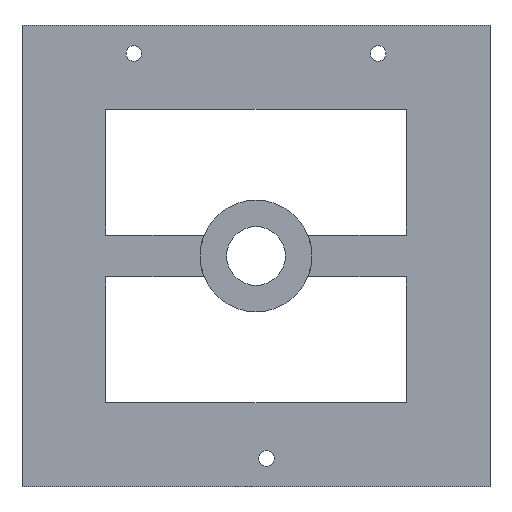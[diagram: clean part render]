
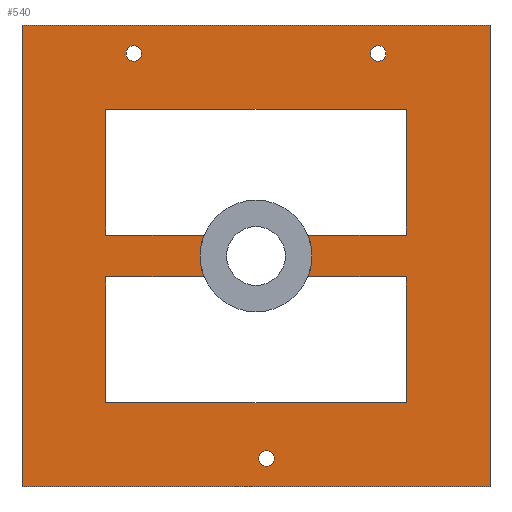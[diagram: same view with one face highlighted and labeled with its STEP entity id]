
A CAD part, front view. The second image highlights one B-rep face of the part: STEP entity #540.
In plain terms, the highlighted planar face has unit normal (0, -1, 0).
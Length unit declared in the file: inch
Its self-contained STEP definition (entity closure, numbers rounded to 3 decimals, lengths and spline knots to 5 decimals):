
#1=DIRECTION('',(1.,0.,0.));
#2=VECTOR('',#1,4.1875);
#3=CARTESIAN_POINT('',(0.,0.,0.));
#4=LINE('',#3,#2);
#5=DIRECTION('',(0.,0.,-1.));
#6=VECTOR('',#5,4.125);
#7=CARTESIAN_POINT('',(4.1875,0.,0.));
#8=LINE('',#7,#6);
#9=DIRECTION('',(-1.,0.,0.));
#10=VECTOR('',#9,4.1875);
#11=CARTESIAN_POINT('',(4.1875,0.,-4.125));
#12=LINE('',#11,#10);
#13=DIRECTION('',(0.,0.,1.));
#14=VECTOR('',#13,4.125);
#15=CARTESIAN_POINT('',(0.,0.,-4.125));
#16=LINE('',#15,#14);
#17=CARTESIAN_POINT('',(2.1875,0.,-3.875));
#18=DIRECTION('',(0.,1.,0.));
#19=DIRECTION('',(1.,0.,0.));
#20=AXIS2_PLACEMENT_3D('',#17,#18,#19);
#22=CARTESIAN_POINT('',(2.1875,0.,-3.875));
#23=DIRECTION('',(0.,1.,0.));
#24=DIRECTION('',(-1.,0.,0.));
#25=AXIS2_PLACEMENT_3D('',#22,#23,#24);
#27=CARTESIAN_POINT('',(1.,0.,-0.25));
#28=DIRECTION('',(0.,1.,0.));
#29=DIRECTION('',(1.,0.,0.));
#30=AXIS2_PLACEMENT_3D('',#27,#28,#29);
#32=CARTESIAN_POINT('',(1.,0.,-0.25));
#33=DIRECTION('',(0.,1.,0.));
#34=DIRECTION('',(-1.,0.,0.));
#35=AXIS2_PLACEMENT_3D('',#32,#33,#34);
#37=CARTESIAN_POINT('',(3.1875,0.,-0.25));
#38=DIRECTION('',(0.,1.,0.));
#39=DIRECTION('',(1.,0.,0.));
#40=AXIS2_PLACEMENT_3D('',#37,#38,#39);
#42=CARTESIAN_POINT('',(3.1875,0.,-0.25));
#43=DIRECTION('',(0.,1.,0.));
#44=DIRECTION('',(-1.,0.,0.));
#45=AXIS2_PLACEMENT_3D('',#42,#43,#44);
#47=CARTESIAN_POINT('',(2.09375,0.,-2.0625));
#48=DIRECTION('',(0.,1.,0.));
#49=DIRECTION('',(1.,0.,0.));
#50=AXIS2_PLACEMENT_3D('',#47,#48,#49);
#52=CARTESIAN_POINT('',(2.09375,0.,-2.0625));
#53=DIRECTION('',(0.,1.,0.));
#54=DIRECTION('',(0.927,0.,0.375));
#55=AXIS2_PLACEMENT_3D('',#52,#53,#54);
#57=DIRECTION('',(1.,0.,0.));
#58=VECTOR('',#57,0.88024);
#59=CARTESIAN_POINT('',(2.55726,0.,-1.875));
#60=LINE('',#59,#58);
#61=DIRECTION('',(0.,0.,1.));
#62=VECTOR('',#61,1.125);
#63=CARTESIAN_POINT('',(3.4375,0.,-1.875));
#64=LINE('',#63,#62);
#65=DIRECTION('',(-1.,0.,0.));
#66=VECTOR('',#65,2.6875);
#67=CARTESIAN_POINT('',(3.4375,0.,-0.75));
#68=LINE('',#67,#66);
#69=DIRECTION('',(0.,0.,-1.));
#70=VECTOR('',#69,1.125);
#71=CARTESIAN_POINT('',(0.75,0.,-0.75));
#72=LINE('',#71,#70);
#73=DIRECTION('',(1.,0.,0.));
#74=VECTOR('',#73,0.88024);
#75=CARTESIAN_POINT('',(0.75,0.,-1.875));
#76=LINE('',#75,#74);
#77=CARTESIAN_POINT('',(2.09375,0.,-2.0625));
#78=DIRECTION('',(0.,1.,0.));
#79=DIRECTION('',(-1.,0.,0.));
#80=AXIS2_PLACEMENT_3D('',#77,#78,#79);
#82=CARTESIAN_POINT('',(2.09375,0.,-2.0625));
#83=DIRECTION('',(0.,1.,0.));
#84=DIRECTION('',(-0.927,0.,-0.375));
#85=AXIS2_PLACEMENT_3D('',#82,#83,#84);
#87=DIRECTION('',(-1.,0.,0.));
#88=VECTOR('',#87,0.88024);
#89=CARTESIAN_POINT('',(1.63024,0.,-2.25));
#90=LINE('',#89,#88);
#91=DIRECTION('',(0.,0.,-1.));
#92=VECTOR('',#91,1.125);
#93=CARTESIAN_POINT('',(0.75,0.,-2.25));
#94=LINE('',#93,#92);
#95=DIRECTION('',(1.,0.,0.));
#96=VECTOR('',#95,2.6875);
#97=CARTESIAN_POINT('',(0.75,0.,-3.375));
#98=LINE('',#97,#96);
#99=DIRECTION('',(0.,0.,1.));
#100=VECTOR('',#99,1.125);
#101=CARTESIAN_POINT('',(3.4375,0.,-3.375));
#102=LINE('',#101,#100);
#103=DIRECTION('',(-1.,0.,0.));
#104=VECTOR('',#103,0.88024);
#105=CARTESIAN_POINT('',(3.4375,0.,-2.25));
#106=LINE('',#105,#104);
#365=CARTESIAN_POINT('',(0.,0.,0.));
#366=CARTESIAN_POINT('',(4.1875,0.,0.));
#367=VERTEX_POINT('',#365);
#368=VERTEX_POINT('',#366);
#369=CARTESIAN_POINT('',(4.1875,0.,-4.125));
#370=VERTEX_POINT('',#369);
#371=CARTESIAN_POINT('',(0.,0.,-4.125));
#372=VERTEX_POINT('',#371);
#373=CARTESIAN_POINT('',(0.75,0.,-3.375));
#374=CARTESIAN_POINT('',(3.4375,0.,-3.375));
#375=VERTEX_POINT('',#373);
#376=VERTEX_POINT('',#374);
#377=CARTESIAN_POINT('',(3.4375,0.,-2.25));
#378=VERTEX_POINT('',#377);
#379=CARTESIAN_POINT('',(0.75,0.,-2.25));
#380=VERTEX_POINT('',#379);
#381=CARTESIAN_POINT('',(3.4375,0.,-1.875));
#382=CARTESIAN_POINT('',(3.4375,0.,-0.75));
#383=VERTEX_POINT('',#381);
#384=VERTEX_POINT('',#382);
#385=CARTESIAN_POINT('',(0.75,0.,-0.75));
#386=VERTEX_POINT('',#385);
#387=CARTESIAN_POINT('',(0.75,0.,-1.875));
#388=VERTEX_POINT('',#387);
#413=CARTESIAN_POINT('',(2.2565,0.,-3.875));
#414=CARTESIAN_POINT('',(2.1185,0.,-3.875));
#415=VERTEX_POINT('',#413);
#416=VERTEX_POINT('',#414);
#417=CARTESIAN_POINT('',(1.069,0.,-0.25));
#418=CARTESIAN_POINT('',(0.931,0.,-0.25));
#419=VERTEX_POINT('',#417);
#420=VERTEX_POINT('',#418);
#429=CARTESIAN_POINT('',(3.2565,0.,-0.25));
#430=CARTESIAN_POINT('',(3.1185,0.,-0.25));
#431=VERTEX_POINT('',#429);
#432=VERTEX_POINT('',#430);
#453=CARTESIAN_POINT('',(2.59375,0.,-2.0625));
#454=CARTESIAN_POINT('',(2.55726,0.,-2.25));
#455=VERTEX_POINT('',#453);
#456=VERTEX_POINT('',#454);
#457=CARTESIAN_POINT('',(1.63024,0.,-2.25));
#458=CARTESIAN_POINT('',(1.59375,0.,-2.0625));
#459=VERTEX_POINT('',#457);
#460=VERTEX_POINT('',#458);
#461=CARTESIAN_POINT('',(1.63024,0.,-1.875));
#462=VERTEX_POINT('',#461);
#463=CARTESIAN_POINT('',(2.55726,0.,-1.875));
#464=VERTEX_POINT('',#463);
#477=CARTESIAN_POINT('',(0.,0.,0.));
#478=DIRECTION('',(0.,1.,0.));
#479=DIRECTION('',(1.,0.,0.));
#480=AXIS2_PLACEMENT_3D('',#477,#478,#479);
#481=PLANE('',#480);
#483=ORIENTED_EDGE('',*,*,#482,.T.);
#485=ORIENTED_EDGE('',*,*,#484,.T.);
#487=ORIENTED_EDGE('',*,*,#486,.T.);
#489=ORIENTED_EDGE('',*,*,#488,.T.);
#490=EDGE_LOOP('',(#483,#485,#487,#489));
#491=FACE_OUTER_BOUND('',#490,.F.);
#493=ORIENTED_EDGE('',*,*,#492,.F.);
#495=ORIENTED_EDGE('',*,*,#494,.F.);
#496=EDGE_LOOP('',(#493,#495));
#497=FACE_BOUND('',#496,.F.);
#499=ORIENTED_EDGE('',*,*,#498,.F.);
#501=ORIENTED_EDGE('',*,*,#500,.F.);
#502=EDGE_LOOP('',(#499,#501));
#503=FACE_BOUND('',#502,.F.);
#505=ORIENTED_EDGE('',*,*,#504,.F.);
#507=ORIENTED_EDGE('',*,*,#506,.F.);
#508=EDGE_LOOP('',(#505,#507));
#509=FACE_BOUND('',#508,.F.);
#511=ORIENTED_EDGE('',*,*,#510,.F.);
#513=ORIENTED_EDGE('',*,*,#512,.F.);
#515=ORIENTED_EDGE('',*,*,#514,.T.);
#517=ORIENTED_EDGE('',*,*,#516,.T.);
#519=ORIENTED_EDGE('',*,*,#518,.T.);
#521=ORIENTED_EDGE('',*,*,#520,.T.);
#523=ORIENTED_EDGE('',*,*,#522,.T.);
#525=ORIENTED_EDGE('',*,*,#524,.F.);
#527=ORIENTED_EDGE('',*,*,#526,.F.);
#529=ORIENTED_EDGE('',*,*,#528,.T.);
#531=ORIENTED_EDGE('',*,*,#530,.T.);
#533=ORIENTED_EDGE('',*,*,#532,.T.);
#535=ORIENTED_EDGE('',*,*,#534,.T.);
#537=ORIENTED_EDGE('',*,*,#536,.T.);
#538=EDGE_LOOP('',(#511,#513,#515,#517,#519,#521,#523,#525,#527,#529,#531,#533,
#535,#537));
#539=FACE_BOUND('',#538,.F.);
#540=ADVANCED_FACE('',(#491,#497,#503,#509,#539),#481,.F.);
#21=CIRCLE('',#20,0.069);
#26=CIRCLE('',#25,0.069);
#31=CIRCLE('',#30,0.069);
#36=CIRCLE('',#35,0.069);
#41=CIRCLE('',#40,0.069);
#46=CIRCLE('',#45,0.069);
#51=CIRCLE('',#50,0.5);
#56=CIRCLE('',#55,0.5);
#81=CIRCLE('',#80,0.5);
#86=CIRCLE('',#85,0.5);
#482=EDGE_CURVE('',#367,#368,#4,.T.);
#484=EDGE_CURVE('',#368,#370,#8,.T.);
#486=EDGE_CURVE('',#370,#372,#12,.T.);
#488=EDGE_CURVE('',#372,#367,#16,.T.);
#492=EDGE_CURVE('',#415,#416,#21,.T.);
#494=EDGE_CURVE('',#416,#415,#26,.T.);
#498=EDGE_CURVE('',#419,#420,#31,.T.);
#500=EDGE_CURVE('',#420,#419,#36,.T.);
#504=EDGE_CURVE('',#431,#432,#41,.T.);
#506=EDGE_CURVE('',#432,#431,#46,.T.);
#510=EDGE_CURVE('',#455,#456,#51,.T.);
#512=EDGE_CURVE('',#464,#455,#56,.T.);
#514=EDGE_CURVE('',#464,#383,#60,.T.);
#516=EDGE_CURVE('',#383,#384,#64,.T.);
#518=EDGE_CURVE('',#384,#386,#68,.T.);
#520=EDGE_CURVE('',#386,#388,#72,.T.);
#522=EDGE_CURVE('',#388,#462,#76,.T.);
#524=EDGE_CURVE('',#460,#462,#81,.T.);
#526=EDGE_CURVE('',#459,#460,#86,.T.);
#528=EDGE_CURVE('',#459,#380,#90,.T.);
#530=EDGE_CURVE('',#380,#375,#94,.T.);
#532=EDGE_CURVE('',#375,#376,#98,.T.);
#534=EDGE_CURVE('',#376,#378,#102,.T.);
#536=EDGE_CURVE('',#378,#456,#106,.T.);
